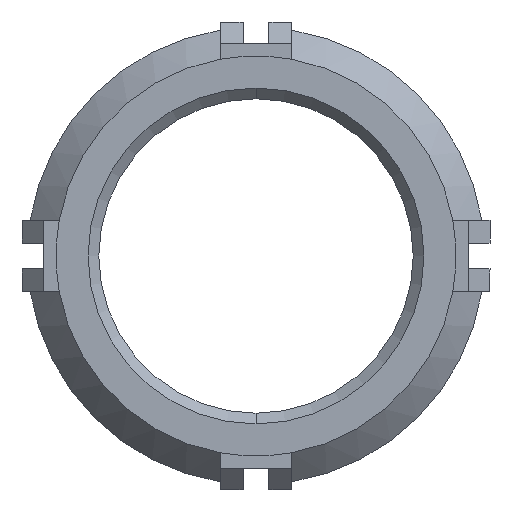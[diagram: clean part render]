
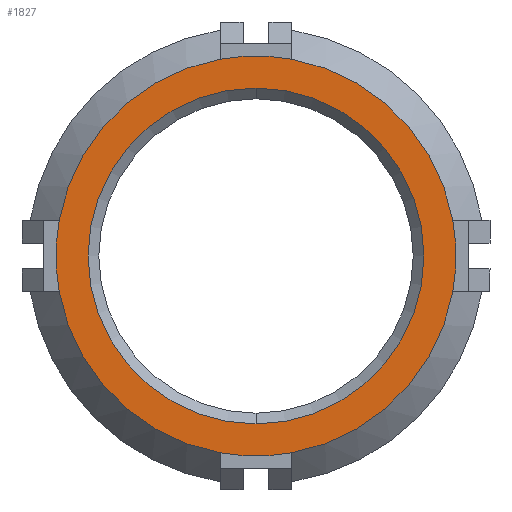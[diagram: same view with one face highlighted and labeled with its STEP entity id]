
A CAD part, front view. The second image highlights one B-rep face of the part: STEP entity #1827.
In plain terms, the highlighted planar face has unit normal (0, -1, 0).
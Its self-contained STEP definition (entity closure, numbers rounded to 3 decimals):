
#101 = DIRECTION ( 'NONE',  ( 0., 0., 1. ) ) ;
#242 = AXIS2_PLACEMENT_3D ( 'NONE', #3909, #1686, #4354 ) ;
#303 = CARTESIAN_POINT ( 'NONE',  ( 0., -32., 0. ) ) ;
#495 = DIRECTION ( 'NONE',  ( 0., -1., 0. ) ) ;
#612 = CARTESIAN_POINT ( 'NONE',  ( 0., -32., 0. ) ) ;
#676 = CARTESIAN_POINT ( 'NONE',  ( -2.5, -32., -13.775 ) ) ;
#788 = CIRCLE ( 'NONE', #3418, 11.75 ) ;
#834 = FACE_BOUND ( 'NONE', #6363, .T. ) ;
#876 = DIRECTION ( 'NONE',  ( 0., -1., 0. ) ) ;
#1051 = VERTEX_POINT ( 'NONE', #3580 ) ;
#1183 = EDGE_CURVE ( 'NONE', #2475, #4737, #1551, .T. ) ;
#1284 = CARTESIAN_POINT ( 'NONE',  ( 0., -32., 0. ) ) ;
#1337 = CARTESIAN_POINT ( 'NONE',  ( 0., -32., 0. ) ) ;
#1343 = DIRECTION ( 'NONE',  ( 0., 0., 1. ) ) ;
#1399 = ORIENTED_EDGE ( 'NONE', *, *, #5769, .T. ) ;
#1447 = AXIS2_PLACEMENT_3D ( 'NONE', #303, #2989, #1343 ) ;
#1531 = CARTESIAN_POINT ( 'NONE',  ( 0., -32., 0. ) ) ;
#1539 = CIRCLE ( 'NONE', #2578, 14. ) ;
#1551 = CIRCLE ( 'NONE', #3385, 14. ) ;
#1633 = ORIENTED_EDGE ( 'NONE', *, *, #4741, .T. ) ;
#1637 = ORIENTED_EDGE ( 'NONE', *, *, #6046, .T. ) ;
#1686 = DIRECTION ( 'NONE',  ( 0., -1., 0. ) ) ;
#1691 = ORIENTED_EDGE ( 'NONE', *, *, #6579, .T. ) ;
#1744 = ORIENTED_EDGE ( 'NONE', *, *, #6343, .T. ) ;
#1803 = CARTESIAN_POINT ( 'NONE',  ( 0., -32., 0. ) ) ;
#1827 = ADVANCED_FACE ( 'NONE', ( #834, #2528 ), #4722, .F. ) ;
#1884 = DIRECTION ( 'NONE',  ( 0., 0., 1. ) ) ;
#2001 = AXIS2_PLACEMENT_3D ( 'NONE', #1803, #5582, #101 ) ;
#2032 = ORIENTED_EDGE ( 'NONE', *, *, #5650, .T. ) ;
#2052 = AXIS2_PLACEMENT_3D ( 'NONE', #2681, #495, #2146 ) ;
#2146 = DIRECTION ( 'NONE',  ( -1., 0., 0. ) ) ;
#2225 = DIRECTION ( 'NONE',  ( 0., 1., 0. ) ) ;
#2378 = ORIENTED_EDGE ( 'NONE', *, *, #5135, .T. ) ;
#2388 = CIRCLE ( 'NONE', #2845, 14. ) ;
#2475 = VERTEX_POINT ( 'NONE', #2725 ) ;
#2528 = FACE_OUTER_BOUND ( 'NONE', #3003, .T. ) ;
#2578 = AXIS2_PLACEMENT_3D ( 'NONE', #5905, #876, #5800 ) ;
#2624 = CIRCLE ( 'NONE', #7103, 11.75 ) ;
#2657 = VERTEX_POINT ( 'NONE', #4151 ) ;
#2681 = CARTESIAN_POINT ( 'NONE',  ( 0., -32., 0. ) ) ;
#2725 = CARTESIAN_POINT ( 'NONE',  ( 2.5, -32., 13.775 ) ) ;
#2833 = DIRECTION ( 'NONE',  ( 0., 0., 1. ) ) ;
#2845 = AXIS2_PLACEMENT_3D ( 'NONE', #1337, #2985, #4858 ) ;
#2854 = CIRCLE ( 'NONE', #2052, 14. ) ;
#2970 = CARTESIAN_POINT ( 'NONE',  ( 0., -32., 0. ) ) ;
#2977 = ORIENTED_EDGE ( 'NONE', *, *, #1183, .T. ) ;
#2985 = DIRECTION ( 'NONE',  ( 0., -1., 0. ) ) ;
#2989 = DIRECTION ( 'NONE',  ( 0., 1., 0. ) ) ;
#3003 = EDGE_LOOP ( 'NONE', ( #1399, #1633, #1637, #2378, #5030, #1744, #2977, #1691 ) ) ;
#3228 = VERTEX_POINT ( 'NONE', #5333 ) ;
#3263 = DIRECTION ( 'NONE',  ( 0., 0., 1. ) ) ;
#3385 = AXIS2_PLACEMENT_3D ( 'NONE', #1531, #4232, #4380 ) ;
#3418 = AXIS2_PLACEMENT_3D ( 'NONE', #612, #2225, #3263 ) ;
#3488 = CIRCLE ( 'NONE', #2001, 14. ) ;
#3580 = CARTESIAN_POINT ( 'NONE',  ( 13.775, -32., 2.5 ) ) ;
#3688 = CARTESIAN_POINT ( 'NONE',  ( -13.775, -32., -2.5 ) ) ;
#3753 = VERTEX_POINT ( 'NONE', #6040 ) ;
#3851 = CARTESIAN_POINT ( 'NONE',  ( -13.775, -32., 2.5 ) ) ;
#3909 = CARTESIAN_POINT ( 'NONE',  ( 0., -32., 0. ) ) ;
#4115 = AXIS2_PLACEMENT_3D ( 'NONE', #2970, #5069, #4561 ) ;
#4151 = CARTESIAN_POINT ( 'NONE',  ( 0., -32., -11.75 ) ) ;
#4232 = DIRECTION ( 'NONE',  ( 0., -1., 0. ) ) ;
#4354 = DIRECTION ( 'NONE',  ( 0., 0., -1. ) ) ;
#4380 = DIRECTION ( 'NONE',  ( 1., 0., 0. ) ) ;
#4449 = AXIS2_PLACEMENT_3D ( 'NONE', #1284, #6816, #1884 ) ;
#4561 = DIRECTION ( 'NONE',  ( 0., 0., 1. ) ) ;
#4608 = VERTEX_POINT ( 'NONE', #3851 ) ;
#4674 = VERTEX_POINT ( 'NONE', #676 ) ;
#4722 = PLANE ( 'NONE',  #1447 ) ;
#4737 = VERTEX_POINT ( 'NONE', #6203 ) ;
#4741 = EDGE_CURVE ( 'NONE', #5573, #4674, #6276, .T. ) ;
#4858 = DIRECTION ( 'NONE',  ( 0., 0., 1. ) ) ;
#5030 = ORIENTED_EDGE ( 'NONE', *, *, #6935, .T. ) ;
#5069 = DIRECTION ( 'NONE',  ( 0., -1., 0. ) ) ;
#5135 = EDGE_CURVE ( 'NONE', #6568, #3753, #2388, .T. ) ;
#5333 = CARTESIAN_POINT ( 'NONE',  ( 0., -32., 11.75 ) ) ;
#5560 = CARTESIAN_POINT ( 'NONE',  ( 0., -32., 0. ) ) ;
#5573 = VERTEX_POINT ( 'NONE', #3688 ) ;
#5582 = DIRECTION ( 'NONE',  ( 0., -1., 0. ) ) ;
#5650 = EDGE_CURVE ( 'NONE', #2657, #3228, #788, .T. ) ;
#5657 = EDGE_CURVE ( 'NONE', #3228, #2657, #2624, .T. ) ;
#5769 = EDGE_CURVE ( 'NONE', #4608, #5573, #6291, .T. ) ;
#5800 = DIRECTION ( 'NONE',  ( 0., 0., 1. ) ) ;
#5905 = CARTESIAN_POINT ( 'NONE',  ( 0., -32., 0. ) ) ;
#6040 = CARTESIAN_POINT ( 'NONE',  ( 13.775, -32., -2.5 ) ) ;
#6046 = EDGE_CURVE ( 'NONE', #4674, #6568, #2854, .T. ) ;
#6089 = CIRCLE ( 'NONE', #242, 14. ) ;
#6203 = CARTESIAN_POINT ( 'NONE',  ( -2.5, -32., 13.775 ) ) ;
#6276 = CIRCLE ( 'NONE', #4449, 14. ) ;
#6291 = CIRCLE ( 'NONE', #4115, 14. ) ;
#6343 = EDGE_CURVE ( 'NONE', #1051, #2475, #1539, .T. ) ;
#6363 = EDGE_LOOP ( 'NONE', ( #2032, #6908 ) ) ;
#6546 = DIRECTION ( 'NONE',  ( 0., 1., 0. ) ) ;
#6568 = VERTEX_POINT ( 'NONE', #6634 ) ;
#6579 = EDGE_CURVE ( 'NONE', #4737, #4608, #3488, .T. ) ;
#6634 = CARTESIAN_POINT ( 'NONE',  ( 2.5, -32., -13.775 ) ) ;
#6816 = DIRECTION ( 'NONE',  ( 0., -1., 0. ) ) ;
#6908 = ORIENTED_EDGE ( 'NONE', *, *, #5657, .T. ) ;
#6935 = EDGE_CURVE ( 'NONE', #3753, #1051, #6089, .T. ) ;
#7103 = AXIS2_PLACEMENT_3D ( 'NONE', #5560, #6546, #2833 ) ;
